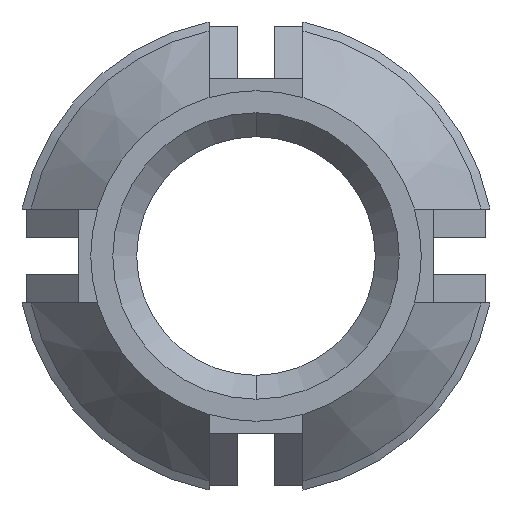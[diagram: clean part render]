
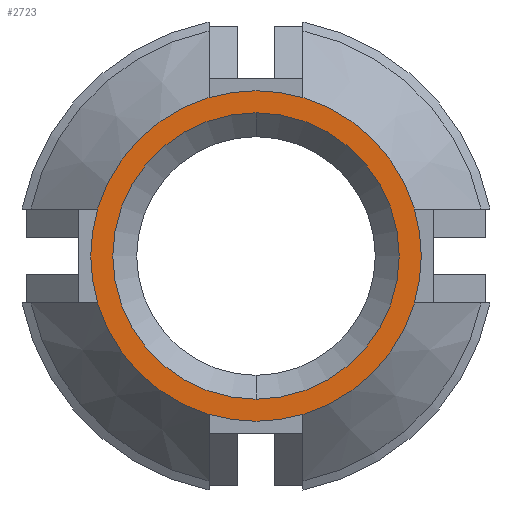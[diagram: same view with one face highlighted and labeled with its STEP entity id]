
A CAD part, front view. The second image highlights one B-rep face of the part: STEP entity #2723.
In plain terms, the highlighted planar face has unit normal (0, -1, 0).
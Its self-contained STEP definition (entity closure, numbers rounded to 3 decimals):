
#17 = CIRCLE ( 'NONE', #3380, 4.396 ) ;
#128 = DIRECTION ( 'NONE',  ( 0., 0., 1. ) ) ;
#218 = DIRECTION ( 'NONE',  ( 0., -1., 0. ) ) ;
#293 = CIRCLE ( 'NONE', #3119, 4.396 ) ;
#294 = VERTEX_POINT ( 'NONE', #2242 ) ;
#326 = ORIENTED_EDGE ( 'NONE', *, *, #1440, .T. ) ;
#369 = CARTESIAN_POINT ( 'NONE',  ( 0., -9.398, 0. ) ) ;
#395 = ORIENTED_EDGE ( 'NONE', *, *, #3198, .T. ) ;
#489 = CARTESIAN_POINT ( 'NONE',  ( 0., -9.398, 0. ) ) ;
#522 = CARTESIAN_POINT ( 'NONE',  ( 0., -9.398, 0. ) ) ;
#531 = CARTESIAN_POINT ( 'NONE',  ( 1.25, -9.398, 4.215 ) ) ;
#543 = AXIS2_PLACEMENT_3D ( 'NONE', #369, #3870, #3782 ) ;
#547 = EDGE_CURVE ( 'NONE', #294, #3968, #1547, .T. ) ;
#563 = AXIS2_PLACEMENT_3D ( 'NONE', #2605, #2921, #2304 ) ;
#639 = AXIS2_PLACEMENT_3D ( 'NONE', #522, #2693, #2366 ) ;
#660 = CARTESIAN_POINT ( 'NONE',  ( 4.215, -9.398, -1.25 ) ) ;
#676 = DIRECTION ( 'NONE',  ( 0., -1., 0. ) ) ;
#803 = EDGE_CURVE ( 'NONE', #3886, #1759, #1091, .T. ) ;
#868 = FACE_OUTER_BOUND ( 'NONE', #3664, .T. ) ;
#898 = ORIENTED_EDGE ( 'NONE', *, *, #2755, .T. ) ;
#934 = CARTESIAN_POINT ( 'NONE',  ( 0., -9.398, 0. ) ) ;
#963 = FACE_BOUND ( 'NONE', #3197, .T. ) ;
#1018 = VERTEX_POINT ( 'NONE', #531 ) ;
#1049 = DIRECTION ( 'NONE',  ( 0., 1., 0. ) ) ;
#1091 = CIRCLE ( 'NONE', #1890, 4.396 ) ;
#1135 = VERTEX_POINT ( 'NONE', #1479 ) ;
#1144 = DIRECTION ( 'NONE',  ( 1., 0., 0. ) ) ;
#1236 = AXIS2_PLACEMENT_3D ( 'NONE', #3424, #2854, #2828 ) ;
#1240 = ORIENTED_EDGE ( 'NONE', *, *, #803, .T. ) ;
#1270 = CIRCLE ( 'NONE', #3989, 3.81 ) ;
#1356 = ORIENTED_EDGE ( 'NONE', *, *, #2096, .T. ) ;
#1438 = VERTEX_POINT ( 'NONE', #2210 ) ;
#1440 = EDGE_CURVE ( 'NONE', #2615, #3886, #17, .T. ) ;
#1475 = VERTEX_POINT ( 'NONE', #1664 ) ;
#1479 = CARTESIAN_POINT ( 'NONE',  ( 4.215, -9.398, 1.25 ) ) ;
#1516 = CIRCLE ( 'NONE', #543, 4.396 ) ;
#1547 = CIRCLE ( 'NONE', #1771, 3.81 ) ;
#1608 = CIRCLE ( 'NONE', #1236, 4.396 ) ;
#1664 = CARTESIAN_POINT ( 'NONE',  ( -1.25, -9.398, -4.215 ) ) ;
#1677 = PLANE ( 'NONE',  #563 ) ;
#1698 = CARTESIAN_POINT ( 'NONE',  ( 0., -9.398, 0. ) ) ;
#1759 = VERTEX_POINT ( 'NONE', #1806 ) ;
#1771 = AXIS2_PLACEMENT_3D ( 'NONE', #1698, #2122, #3957 ) ;
#1806 = CARTESIAN_POINT ( 'NONE',  ( -4.215, -9.398, -1.25 ) ) ;
#1824 = CARTESIAN_POINT ( 'NONE',  ( 0., -9.398, 0. ) ) ;
#1890 = AXIS2_PLACEMENT_3D ( 'NONE', #2215, #1917, #2538 ) ;
#1917 = DIRECTION ( 'NONE',  ( 0., -1., 0. ) ) ;
#1959 = CIRCLE ( 'NONE', #3676, 4.396 ) ;
#2087 = ORIENTED_EDGE ( 'NONE', *, *, #547, .T. ) ;
#2096 = EDGE_CURVE ( 'NONE', #3968, #294, #1270, .T. ) ;
#2114 = CIRCLE ( 'NONE', #639, 4.396 ) ;
#2122 = DIRECTION ( 'NONE',  ( 0., 1., 0. ) ) ;
#2188 = DIRECTION ( 'NONE',  ( 0., 0., 1. ) ) ;
#2208 = EDGE_CURVE ( 'NONE', #1135, #1018, #2114, .T. ) ;
#2210 = CARTESIAN_POINT ( 'NONE',  ( 1.25, -9.398, -4.215 ) ) ;
#2215 = CARTESIAN_POINT ( 'NONE',  ( 0., -9.398, 0. ) ) ;
#2242 = CARTESIAN_POINT ( 'NONE',  ( 0., -9.398, 3.81 ) ) ;
#2292 = EDGE_CURVE ( 'NONE', #3029, #1135, #2848, .T. ) ;
#2304 = DIRECTION ( 'NONE',  ( 0., 0., 1. ) ) ;
#2366 = DIRECTION ( 'NONE',  ( 0., 0., 1. ) ) ;
#2527 = ORIENTED_EDGE ( 'NONE', *, *, #2208, .T. ) ;
#2538 = DIRECTION ( 'NONE',  ( 0., 0., 1. ) ) ;
#2605 = CARTESIAN_POINT ( 'NONE',  ( 0., -9.398, 0. ) ) ;
#2615 = VERTEX_POINT ( 'NONE', #3746 ) ;
#2693 = DIRECTION ( 'NONE',  ( 0., -1., 0. ) ) ;
#2723 = ADVANCED_FACE ( 'NONE', ( #963, #868 ), #1677, .F. ) ;
#2755 = EDGE_CURVE ( 'NONE', #1018, #2615, #293, .T. ) ;
#2789 = DIRECTION ( 'NONE',  ( -1., 0., 0. ) ) ;
#2828 = DIRECTION ( 'NONE',  ( 0., 0., 1. ) ) ;
#2848 = CIRCLE ( 'NONE', #3642, 4.396 ) ;
#2854 = DIRECTION ( 'NONE',  ( 0., -1., 0. ) ) ;
#2899 = CARTESIAN_POINT ( 'NONE',  ( 0., -9.398, 0. ) ) ;
#2921 = DIRECTION ( 'NONE',  ( 0., 1., 0. ) ) ;
#2933 = CARTESIAN_POINT ( 'NONE',  ( -4.215, -9.398, 1.25 ) ) ;
#3000 = EDGE_CURVE ( 'NONE', #1438, #3029, #1608, .T. ) ;
#3027 = ORIENTED_EDGE ( 'NONE', *, *, #2292, .T. ) ;
#3029 = VERTEX_POINT ( 'NONE', #660 ) ;
#3119 = AXIS2_PLACEMENT_3D ( 'NONE', #489, #3577, #1144 ) ;
#3197 = EDGE_LOOP ( 'NONE', ( #1356, #2087 ) ) ;
#3198 = EDGE_CURVE ( 'NONE', #1759, #1475, #1516, .T. ) ;
#3314 = CARTESIAN_POINT ( 'NONE',  ( 0., -9.398, 0. ) ) ;
#3380 = AXIS2_PLACEMENT_3D ( 'NONE', #934, #676, #2188 ) ;
#3398 = EDGE_CURVE ( 'NONE', #1475, #1438, #1959, .T. ) ;
#3424 = CARTESIAN_POINT ( 'NONE',  ( 0., -9.398, 0. ) ) ;
#3441 = ORIENTED_EDGE ( 'NONE', *, *, #3398, .T. ) ;
#3518 = CARTESIAN_POINT ( 'NONE',  ( 0., -9.398, -3.81 ) ) ;
#3577 = DIRECTION ( 'NONE',  ( 0., -1., 0. ) ) ;
#3642 = AXIS2_PLACEMENT_3D ( 'NONE', #3314, #218, #3672 ) ;
#3664 = EDGE_LOOP ( 'NONE', ( #1240, #395, #3441, #3709, #3027, #2527, #898, #326 ) ) ;
#3672 = DIRECTION ( 'NONE',  ( 0., 0., -1. ) ) ;
#3676 = AXIS2_PLACEMENT_3D ( 'NONE', #1824, #3963, #2789 ) ;
#3709 = ORIENTED_EDGE ( 'NONE', *, *, #3000, .T. ) ;
#3746 = CARTESIAN_POINT ( 'NONE',  ( -1.25, -9.398, 4.215 ) ) ;
#3782 = DIRECTION ( 'NONE',  ( 0., 0., 1. ) ) ;
#3870 = DIRECTION ( 'NONE',  ( 0., -1., 0. ) ) ;
#3886 = VERTEX_POINT ( 'NONE', #2933 ) ;
#3957 = DIRECTION ( 'NONE',  ( 0., 0., 1. ) ) ;
#3963 = DIRECTION ( 'NONE',  ( 0., -1., 0. ) ) ;
#3968 = VERTEX_POINT ( 'NONE', #3518 ) ;
#3989 = AXIS2_PLACEMENT_3D ( 'NONE', #2899, #1049, #128 ) ;
